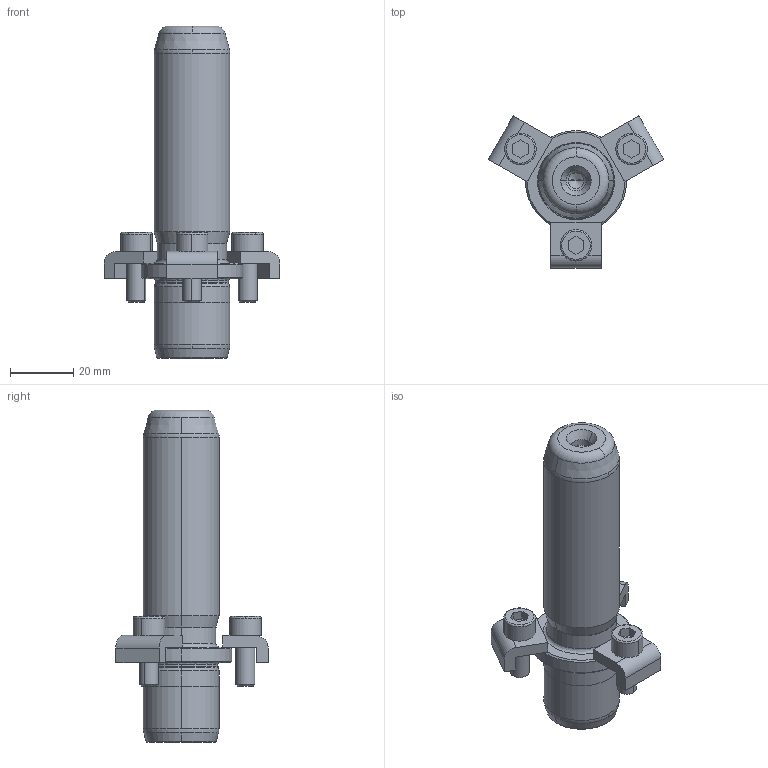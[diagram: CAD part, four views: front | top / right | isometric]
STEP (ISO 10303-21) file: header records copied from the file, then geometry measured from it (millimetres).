
FILE_DESCRIPTION((''),'2;1');
FILE_NAME('P21_024_080.stp','2008-12-23T09:25:30',(''),(''),'Mechanical Desktop 2009','Mechanical Desktop 2009',', , ');
FILE_SCHEMA(('CONFIG_CONTROL_DESIGN'));
Length unit declared in the file: millimetre
Products named in the file (2): Product; blmdl1
Assembly tree (1 placements, depth 2):
  Product
    blmdl1
Bounding box: 55.58 x 48.13 x 105 mm (x, y, z)
Volume: 52155.1 mm3; surface area: 14572.7 mm2
Topology: 7 solids, 7 shells, 163 faces, 417 edges, 269 vertices
Faces by surface type: plane 59, cylinder 44, cone 32, torus 14, bspline 14
Entity records: 5679 total; most frequent: CARTESIAN_POINT 1511, DIRECTION 914, ORIENTED_EDGE 826, EDGE_CURVE 413, AXIS2_PLACEMENT_3D 362, VERTEX_POINT 269, CIRCLE 211, VECTOR 190
